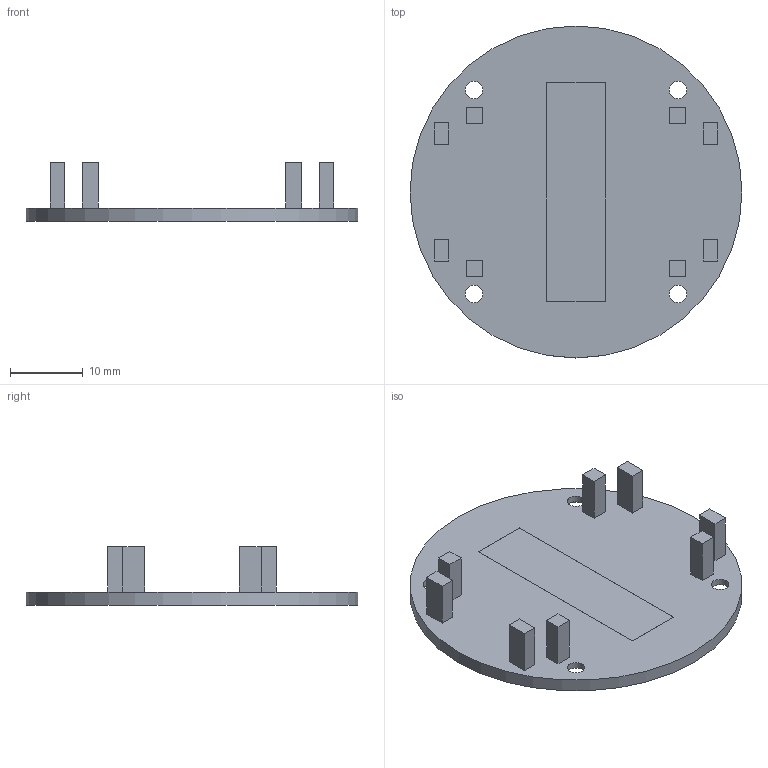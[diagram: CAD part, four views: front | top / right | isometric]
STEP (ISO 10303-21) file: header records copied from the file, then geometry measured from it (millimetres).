
FILE_DESCRIPTION(('Open CASCADE Model'),'2;1');
FILE_NAME('Open CASCADE Shape Model','2026-08-12T19:21:45',('Author'),( 'Open CASCADE'),'Open CASCADE STEP processor 7.9','Open CASCADE 7.9' ,'Unknown');
FILE_SCHEMA(('AUTOMOTIVE_DESIGN { 1 0 10303 214 1 1 1 1 }'));
Length unit declared in the file: millimetre
Products named in the file (1): Open CASCADE STEP translator 7.9 2
Bounding box: 45.6 x 45.6 x 8 mm (x, y, z)
Volume: 3039.3 mm3; surface area: 4057.3 mm2
Topology: 1 solids, 1 shells, 68 faces, 147 edges, 98 vertices
Faces by surface type: plane 55, cylinder 13
Full cylindrical faces by diameter (mm): 2.4 x4, 4.3 x4, 10.4 x4, 45.6 x1
Entity records: 3814 total; most frequent: CARTESIAN_POINT 712, DIRECTION 581, LINE 381, VECTOR 381, ORIENTED_EDGE 294, PCURVE 294, DEFINITIONAL_REPRESENTATION 294, EDGE_CURVE 147
